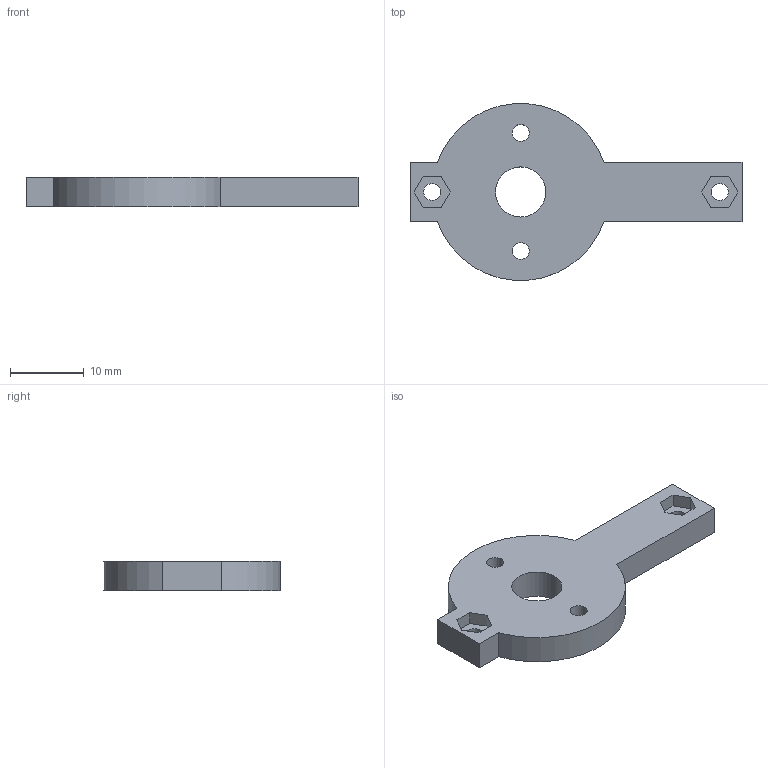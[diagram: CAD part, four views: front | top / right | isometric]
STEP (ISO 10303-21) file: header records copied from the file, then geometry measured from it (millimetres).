
FILE_DESCRIPTION(('Open CASCADE Model'),'2;1');
FILE_NAME('Open CASCADE Shape Model','2026-10-26T16:15:19',('Author'),( 'Open CASCADE'),'Open CASCADE STEP processor 7.8','Open CASCADE 7.8' ,'Unknown');
FILE_SCHEMA(('AUTOMOTIVE_DESIGN { 1 0 10303 214 1 1 1 1 }'));
Length unit declared in the file: millimetre
Products named in the file (1): Open CASCADE STEP translator 7.8 8
Bounding box: 45 x 23.92 x 4 mm (x, y, z)
Volume: 2201.9 mm3; surface area: 1876.3 mm2
Topology: 1 solids, 1 shells, 43 faces, 111 edges, 74 vertices
Faces by surface type: plane 36, cylinder 7
Full cylindrical faces by diameter (mm): 2.3 x4, 6.8 x1
Entity records: 2764 total; most frequent: CARTESIAN_POINT 459, DIRECTION 427, LINE 297, VECTOR 297, ORIENTED_EDGE 222, PCURVE 222, DEFINITIONAL_REPRESENTATION 222, EDGE_CURVE 111
